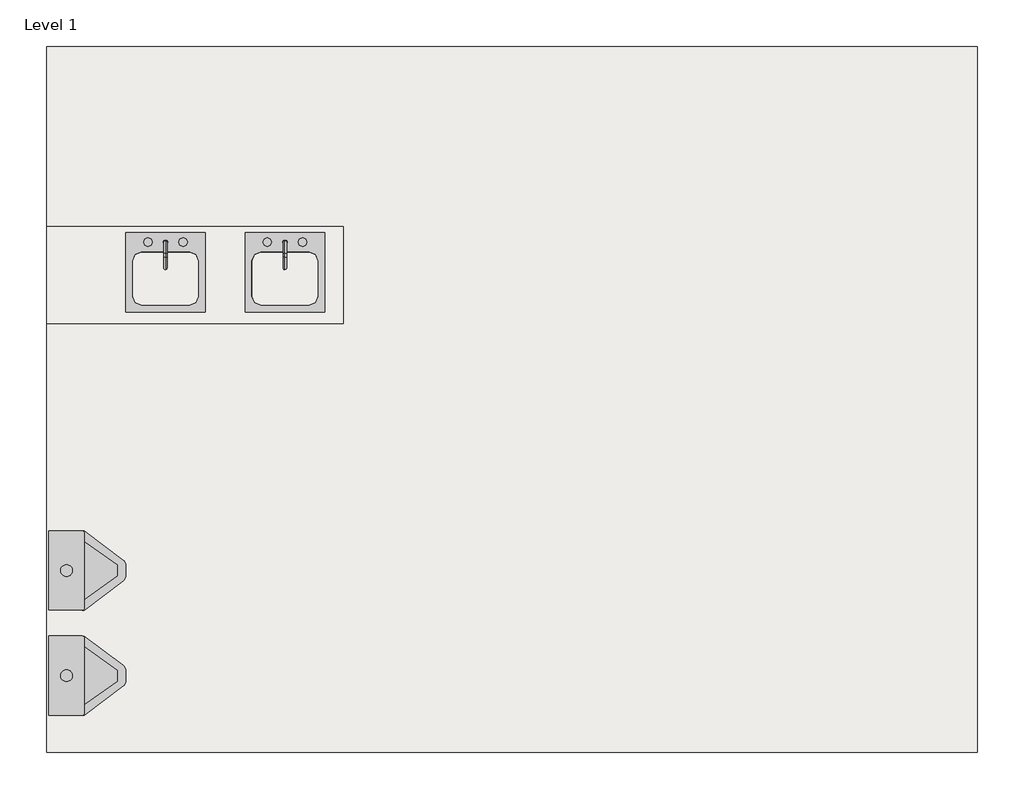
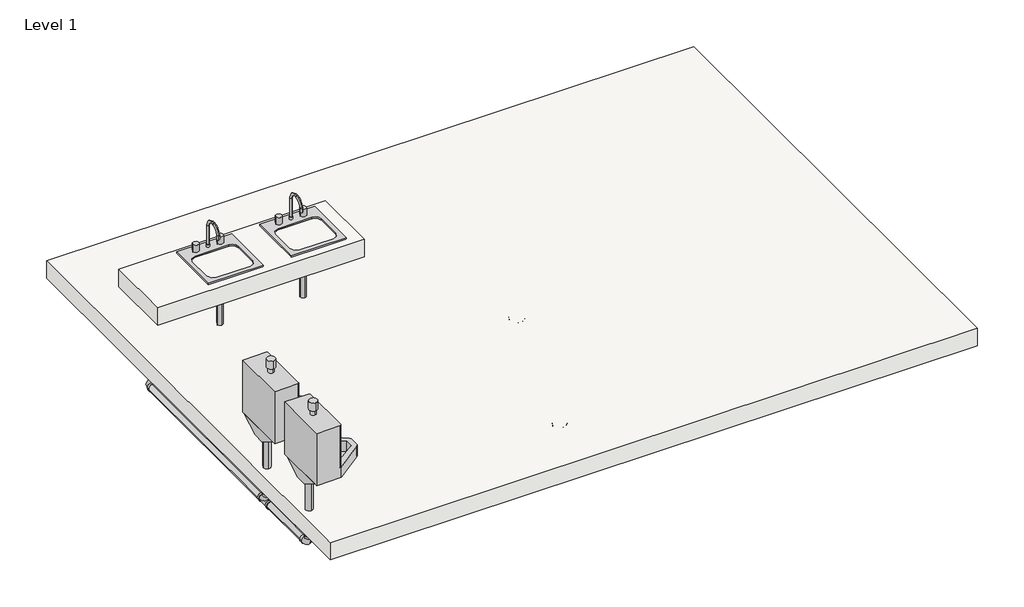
# One storey, incomplete: 12 pipe segments, 11 pipe fittings, 5 flow terminals, 2 slabs.
"""IFC4 building model written with IfcOpenShell, lengths in millimetres."""

from ifc_helpers import new_model, si_unit, point, frame, frame_2d, origin, place, context, project, spatial, polyline, circle_curve, trimmed, segment, composite_curve, outline, extrude, transform, mapped, element, save
from components import flow_terminal_accce45a, flow_terminal_ae45b8c9, flow_terminal_4fefd68c, bend_pvc_sch_40_dwv_standard_1eaeee76, bend_pvc_sch_40_dwv_standard_1fb0f857, bend_pvc_sch_40_dwv_standard_738aab8b, reducer_pvc_sch_40_dwv_standard_b23fa098, reducer_pvc_sch_40_dwv_standard_0cd29215, tee_sanitary_pvc_sch_40_dwv_standard_097eae93

model = new_model("IFC4")

# Units and contexts
model_context = context("Model", 3, world=origin())
ifc_project = project(units=[si_unit("LENGTHUNIT", "METRE", prefix="MILLI")], contexts=[model_context])

# Site, building, storey
site = spatial("IfcSite", under=ifc_project)
building = spatial("IfcBuilding", under=site)
storey = spatial("IfcBuildingStorey", under=building, Name="Level 1", Elevation=0.0)

# Flow terminals
placement = place(None, origin())
flow_terminal_shape = flow_terminal_accce45a(model_context)
element("IfcFlowTerminal", 1, ObjectType="Floor Drain - Round : 5\" Strainer - 2\" Drain", at=placement, inside=storey, context=model_context, shape_type="MappedRepresentation", body=[
    mapped(flow_terminal_shape, transform((-13387.343061, -4203.8047073, 0.0), x_axis=(1.0, 0.0, 0.0), y_axis=(0.0, 1.0, 0.0), z_axis=(0.0, 0.0, 1.0))),
])
flow_terminal_2_shape = flow_terminal_ae45b8c9(model_context)
element("IfcFlowTerminal", 2, ObjectType="Sink - Island - Single : 18\"x18\" - Private", at=placement, inside=storey, context=model_context, shape_type="MappedRepresentation", body=[
    mapped(flow_terminal_2_shape, transform((-14587.1501089, -3206.7453628, 558.8), x_axis=(1.0, 0.0, 0.0), y_axis=(0.0, 1.0, 0.0), z_axis=(0.0, 0.0, 1.0))),
])
element("IfcFlowTerminal", 3, ObjectType="Sink - Island - Single : 18\"x18\" - Private", at=placement, inside=storey, context=model_context, shape_type="MappedRepresentation", body=[
    mapped(flow_terminal_2_shape, transform((-15276.9442591, -3206.7453628, 558.8), x_axis=(1.0, 0.0, 0.0), y_axis=(0.0, 1.0, 0.0), z_axis=(0.0, 0.0, 1.0))),
])
flow_terminal_3_shape = flow_terminal_4fefd68c(model_context)
element("IfcFlowTerminal", 4, ObjectType="Urinal - Wall Hung : 3/4\" Flush Valve", at=placement, inside=storey, context=model_context, shape_type="MappedRepresentation", body=[
    mapped(flow_terminal_3_shape, transform((-15951.155561, -5537.3878398, 457.2), x_axis=(0.0, 1.0, 0.0), y_axis=(0.0, 0.0, 1.0), z_axis=(1.0, 0.0, 0.0))),
])
element("IfcFlowTerminal", 5, ObjectType="Urinal - Wall Hung : 3/4\" Flush Valve", at=placement, inside=storey, context=model_context, shape_type="MappedRepresentation", body=[
    mapped(flow_terminal_3_shape, transform((-15951.155561, -4930.0646116, 457.2), x_axis=(0.0, 1.0, 0.0), y_axis=(0.0, 0.0, 1.0), z_axis=(1.0, 0.0, 0.0))),
])

# Pipe fittings
bend_pvc_sch_40_dwv_standard_shape = bend_pvc_sch_40_dwv_standard_1eaeee76(model_context)
element("IfcPipeFitting", 6, ObjectType="Bend - PVC - Sch 40 - DWV : Standard", at=placement, inside=storey, context=model_context, shape_type="MappedRepresentation", body=[
    mapped(bend_pvc_sch_40_dwv_standard_shape, transform((-13387.343061, -4203.8047073, -304.8), x_axis=(0.0, 0.0, -1.0), y_axis=(0.0, -1.0, 0.0), z_axis=(-1.0, 0.0, 0.0))),
])
element("IfcPipeFitting", 7, ObjectType="Bend - PVC - Sch 40 - DWV : Standard", at=placement, inside=storey, context=model_context, shape_type="MappedRepresentation", body=[
    mapped(bend_pvc_sch_40_dwv_standard_shape, transform((-13387.343061, -5508.9237971, -304.8), x_axis=(1.0, 0.0, 0.0), y_axis=(0.0, 1.0, 0.0), z_axis=(0.0, 0.0, 1.0))),
])
element("IfcPipeFitting", 8, ObjectType="Bend - PVC - Sch 40 - DWV : Standard", at=placement, inside=storey, context=model_context, shape_type="MappedRepresentation", body=[
    mapped(bend_pvc_sch_40_dwv_standard_shape, transform((-15882.496186, -3206.7453628, -304.8), x_axis=(-1.0, 0.0, 0.0), y_axis=(0.0, -1.0, 0.0), z_axis=(0.0, 0.0, 1.0))),
])
element("IfcPipeFitting", 9, ObjectType="Bend - PVC - Sch 40 - DWV : Standard", at=placement, inside=storey, context=model_context, shape_type="MappedRepresentation", body=[
    mapped(bend_pvc_sch_40_dwv_standard_shape, transform((-15882.496186, -5537.3878398, -304.8), x_axis=(0.0, 0.0, -1.0), y_axis=(0.0, 1.0, 0.0), z_axis=(1.0, 0.0, 0.0))),
])
bend_pvc_sch_40_dwv_standard_2_shape = bend_pvc_sch_40_dwv_standard_1fb0f857(model_context)
element("IfcPipeFitting", 10, ObjectType="Bend - PVC - Sch 40 - DWV : Standard", at=placement, inside=storey, context=model_context, shape_type="MappedRepresentation", body=[
    mapped(bend_pvc_sch_40_dwv_standard_2_shape, transform((-13787.2581262, -5508.9237971, -304.8), x_axis=(0.0, 0.0, -1.0), y_axis=(1.0, 0.0, 0.0), z_axis=(0.0, -1.0, 0.0))),
])
bend_pvc_sch_40_dwv_standard_3_shape = bend_pvc_sch_40_dwv_standard_738aab8b(model_context)
element("IfcPipeFitting", 11, ObjectType="Bend - PVC - Sch 40 - DWV : Standard", at=placement, inside=storey, context=model_context, shape_type="MappedRepresentation", body=[
    mapped(bend_pvc_sch_40_dwv_standard_3_shape, transform((-14587.1501089, -3206.7453628, -304.8), x_axis=(0.0, 0.0, -1.0), y_axis=(-1.0, 0.0, 0.0), z_axis=(0.0, 1.0, 0.0))),
])
reducer_pvc_sch_40_dwv_standard_shape = reducer_pvc_sch_40_dwv_standard_b23fa098(model_context)
element("IfcPipeFitting", 12, ObjectType="Reducer - PVC - Sch 40 - DWV : Standard", at=placement, inside=storey, context=model_context, shape_type="MappedRepresentation", body=[
    mapped(reducer_pvc_sch_40_dwv_standard_shape, transform((-15222.9692591, -3206.7453628, -304.8), x_axis=(1.0, 0.0, 0.0), y_axis=(0.0, 1.0, 0.0), z_axis=(0.0, 0.0, 1.0))),
])
element("IfcPipeFitting", 13, ObjectType="Reducer - PVC - Sch 40 - DWV : Standard", at=placement, inside=storey, context=model_context, shape_type="MappedRepresentation", body=[
    mapped(reducer_pvc_sch_40_dwv_standard_shape, transform((-15276.9442591, -3206.7453628, -226.9998), x_axis=(0.0, 0.0, 1.0), y_axis=(-1.0, 0.0, 0.0), z_axis=(0.0, -1.0, 0.0))),
])
reducer_pvc_sch_40_dwv_standard_2_shape = reducer_pvc_sch_40_dwv_standard_0cd29215(model_context)
element("IfcPipeFitting", 14, ObjectType="Reducer - PVC - Sch 40 - DWV : Standard", at=placement, inside=storey, context=model_context, shape_type="MappedRepresentation", body=[
    mapped(reducer_pvc_sch_40_dwv_standard_2_shape, transform((-13465.143261, -5508.9237971, -304.8), x_axis=(-1.0, 0.0, 0.0), y_axis=(0.0, -1.0, 0.0), z_axis=(0.0, 0.0, 1.0))),
])
tee_sanitary_pvc_sch_40_dwv_standard_shape = tee_sanitary_pvc_sch_40_dwv_standard_097eae93(model_context)
element("IfcPipeFitting", 15, ObjectType="Tee Sanitary - PVC - Sch 40 - DWV : Standard", at=placement, inside=storey, context=model_context, shape_type="MappedRepresentation", body=[
    mapped(tee_sanitary_pvc_sch_40_dwv_standard_shape, transform((-15882.496186, -4930.0646116, -304.8), x_axis=(0.0, -1.0, 0.0), y_axis=(0.0, 0.0, -1.0), z_axis=(1.0, 0.0, 0.0))),
])
element("IfcPipeFitting", 16, ObjectType="Tee Sanitary - PVC - Sch 40 - DWV : Standard", at=placement, inside=storey, context=model_context, shape_type="MappedRepresentation", body=[
    mapped(tee_sanitary_pvc_sch_40_dwv_standard_shape, transform((-15276.9442591, -3206.7453628, -304.8), x_axis=(1.0, 0.0, 0.0), y_axis=(0.0, 0.0, -1.0), z_axis=(0.0, 1.0, 0.0))),
])

# Pipe segments
element("IfcPipeSegment", 17, ObjectType="PVC - DWV", at=placement, inside=storey, context=model_context, shape_type="SweptSolid", body=[
    extrude(outline(composite_curve([segment(trimmed(circle_curve(frame_2d((-5508.9237971, -304.8)), 57.15), [point((-5566.0737971, -304.8))], [point((-5508.9237971, -247.65))], False, "CARTESIAN"), True, "CONTINUOUS"), segment(trimmed(circle_curve(frame_2d((-5508.9237971, -304.8)), 57.15), [point((-5508.9237971, -247.65))], [point((-5451.7737971, -304.8))], False, "CARTESIAN"), True, "CONTINUOUS"), segment(trimmed(circle_curve(frame_2d((-5508.9237971, -304.8)), 57.15), [point((-5451.7737971, -304.8))], [point((-5508.9237971, -361.95))], False, "CARTESIAN"), True, "CONTINUOUS"), segment(trimmed(circle_curve(frame_2d((-5508.9237971, -304.8)), 57.15), [point((-5508.9237971, -361.95))], [point((-5566.0737971, -304.8))], False, "CARTESIAN"), True, "CONTINUOUS")], self_intersect=False)), frame((-13644.3831262, 0.0, 0.0), z_axis=(1.0, 0.0, 0.0), x_axis=(0.0, 1.0, 0.0)), (0.0, 0.0, 1.0), 80.8148652),
])
element("IfcPipeSegment", 18, ObjectType="PVC - DWV", at=placement, inside=storey, context=model_context, shape_type="SweptSolid", body=[
    extrude(outline(composite_curve([segment(trimmed(circle_curve(frame_2d((-13787.2581262, -5508.9237971)), 57.15), [point((-13730.1081262, -5508.9237971))], [point((-13787.2581262, -5566.0737971))], False, "CARTESIAN"), True, "CONTINUOUS"), segment(trimmed(circle_curve(frame_2d((-13787.2581262, -5508.9237971)), 57.15), [point((-13787.2581262, -5566.0737971))], [point((-13844.4081262, -5508.9237971))], False, "CARTESIAN"), True, "CONTINUOUS"), segment(trimmed(circle_curve(frame_2d((-13787.2581262, -5508.9237971)), 57.15), [point((-13844.4081262, -5508.9237971))], [point((-13787.2581262, -5451.7737971))], False, "CARTESIAN"), True, "CONTINUOUS"), segment(trimmed(circle_curve(frame_2d((-13787.2581262, -5508.9237971)), 57.15), [point((-13787.2581262, -5451.7737971))], [point((-13730.1081262, -5508.9237971))], False, "CARTESIAN"), True, "CONTINUOUS")], self_intersect=False)), frame((0.0, 0.0, -161.925), z_axis=(0.0, 0.0, 1.0), x_axis=(1.0, 0.0, 0.0)), (0.0, 0.0, 1.0), 161.925),
])
element("IfcPipeSegment", 19, ObjectType="PVC - DWV", at=placement, inside=storey, context=model_context, shape_type="SweptSolid", body=[
    extrude(outline(composite_curve([segment(trimmed(circle_curve(frame_2d((-304.8, -13387.343061)), 30.1625), [point((-304.8, -13417.505561))], [point((-334.9625, -13387.343061))], False, "CARTESIAN"), True, "CONTINUOUS"), segment(trimmed(circle_curve(frame_2d((-304.8, -13387.343061)), 30.1625), [point((-334.9625, -13387.343061))], [point((-304.8, -13357.180561))], False, "CARTESIAN"), True, "CONTINUOUS"), segment(trimmed(circle_curve(frame_2d((-304.8, -13387.343061)), 30.1625), [point((-304.8, -13357.180561))], [point((-274.6375, -13387.343061))], False, "CARTESIAN"), True, "CONTINUOUS"), segment(trimmed(circle_curve(frame_2d((-304.8, -13387.343061)), 30.1625), [point((-274.6375, -13387.343061))], [point((-304.8, -13417.505561))], False, "CARTESIAN"), True, "CONTINUOUS")], self_intersect=False)), frame((0.0, -5431.1235971, 0.0), z_axis=(0.0, 1.0, 0.0), x_axis=(0.0, 0.0, 1.0)), (0.0, 0.0, 1.0), 1149.5186898),
])
element("IfcPipeSegment", 20, ObjectType="PVC - DWV", at=placement, inside=storey, context=model_context, shape_type="SweptSolid", body=[
    extrude(outline(composite_curve([segment(trimmed(circle_curve(frame_2d((-13387.343061, -4203.8047073)), 30.1625), [point((-13357.180561, -4203.8047073))], [point((-13387.343061, -4233.9672073))], False, "CARTESIAN"), True, "CONTINUOUS"), segment(trimmed(circle_curve(frame_2d((-13387.343061, -4203.8047073)), 30.1625), [point((-13387.343061, -4233.9672073))], [point((-13417.505561, -4203.8047073))], False, "CARTESIAN"), True, "CONTINUOUS"), segment(trimmed(circle_curve(frame_2d((-13387.343061, -4203.8047073)), 30.1625), [point((-13417.505561, -4203.8047073))], [point((-13387.343061, -4173.6422073))], False, "CARTESIAN"), True, "CONTINUOUS"), segment(trimmed(circle_curve(frame_2d((-13387.343061, -4203.8047073)), 30.1625), [point((-13387.343061, -4173.6422073))], [point((-13357.180561, -4203.8047073))], False, "CARTESIAN"), True, "CONTINUOUS")], self_intersect=False)), frame((0.0, 0.0, -226.9998), z_axis=(0.0, 0.0, 1.0), x_axis=(1.0, 0.0, 0.0)), (0.0, 0.0, 1.0), 52.3748),
])
element("IfcPipeSegment", 21, ObjectType="PVC - DWV", at=placement, inside=storey, context=model_context, shape_type="SweptSolid", body=[
    extrude(outline(composite_curve([segment(trimmed(circle_curve(frame_2d((-304.8, -15882.496186)), 30.1625), [point((-304.8, -15852.333686))], [point((-274.6375, -15882.496186))], False, "CARTESIAN"), True, "CONTINUOUS"), segment(trimmed(circle_curve(frame_2d((-304.8, -15882.496186)), 30.1625), [point((-274.6375, -15882.496186))], [point((-304.8, -15912.658686))], False, "CARTESIAN"), True, "CONTINUOUS"), segment(trimmed(circle_curve(frame_2d((-304.8, -15882.496186)), 30.1625), [point((-304.8, -15912.658686))], [point((-334.9625, -15882.496186))], False, "CARTESIAN"), True, "CONTINUOUS"), segment(trimmed(circle_curve(frame_2d((-304.8, -15882.496186)), 30.1625), [point((-334.9625, -15882.496186))], [point((-304.8, -15852.333686))], False, "CARTESIAN"), True, "CONTINUOUS")], self_intersect=False)), frame((0.0, -4852.2644116, 0.0), z_axis=(0.0, 1.0, 0.0), x_axis=(0.0, 0.0, 1.0)), (0.0, 0.0, 1.0), 1567.7188488),
])
element("IfcPipeSegment", 22, ObjectType="PVC - DWV", at=placement, inside=storey, context=model_context, shape_type="SweptSolid", body=[
    extrude(outline(composite_curve([segment(trimmed(circle_curve(frame_2d((-3206.7453628, -304.8)), 30.1625), [point((-3236.9078628, -304.8))], [point((-3206.7453628, -274.6375))], False, "CARTESIAN"), True, "CONTINUOUS"), segment(trimmed(circle_curve(frame_2d((-3206.7453628, -304.8)), 30.1625), [point((-3206.7453628, -274.6375))], [point((-3176.5828628, -304.8))], False, "CARTESIAN"), True, "CONTINUOUS"), segment(trimmed(circle_curve(frame_2d((-3206.7453628, -304.8)), 30.1625), [point((-3176.5828628, -304.8))], [point((-3206.7453628, -334.9625))], False, "CARTESIAN"), True, "CONTINUOUS"), segment(trimmed(circle_curve(frame_2d((-3206.7453628, -304.8)), 30.1625), [point((-3206.7453628, -334.9625))], [point((-3236.9078628, -304.8))], False, "CARTESIAN"), True, "CONTINUOUS")], self_intersect=False)), frame((-15804.695986, 0.0, 0.0), z_axis=(1.0, 0.0, 0.0), x_axis=(0.0, 1.0, 0.0)), (0.0, 0.0, 1.0), 449.9515269),
])
element("IfcPipeSegment", 23, ObjectType="PVC - DWV", at=placement, inside=storey, context=model_context, shape_type="SweptSolid", body=[
    extrude(outline(composite_curve([segment(trimmed(circle_curve(frame_2d((-15882.496186, -4930.0646116)), 30.1625), [point((-15852.333686, -4930.0646116))], [point((-15882.496186, -4960.2271116))], False, "CARTESIAN"), True, "CONTINUOUS"), segment(trimmed(circle_curve(frame_2d((-15882.496186, -4930.0646116)), 30.1625), [point((-15882.496186, -4960.2271116))], [point((-15912.658686, -4930.0646116))], False, "CARTESIAN"), True, "CONTINUOUS"), segment(trimmed(circle_curve(frame_2d((-15882.496186, -4930.0646116)), 30.1625), [point((-15912.658686, -4930.0646116))], [point((-15882.496186, -4899.9021116))], False, "CARTESIAN"), True, "CONTINUOUS"), segment(trimmed(circle_curve(frame_2d((-15882.496186, -4930.0646116)), 30.1625), [point((-15882.496186, -4899.9021116))], [point((-15852.333686, -4930.0646116))], False, "CARTESIAN"), True, "CONTINUOUS")], self_intersect=False)), frame((0.0, 0.0, -226.9998), z_axis=(0.0, 0.0, 1.0), x_axis=(1.0, 0.0, 0.0)), (0.0, 0.0, 1.0), 501.6373),
])
element("IfcPipeSegment", 24, ObjectType="PVC - DWV", at=placement, inside=storey, context=model_context, shape_type="SweptSolid", body=[
    extrude(outline(composite_curve([segment(trimmed(circle_curve(frame_2d((-304.8, -15882.496186)), 30.1625), [point((-304.8, -15852.333686))], [point((-274.6375, -15882.496186))], False, "CARTESIAN"), True, "CONTINUOUS"), segment(trimmed(circle_curve(frame_2d((-304.8, -15882.496186)), 30.1625), [point((-274.6375, -15882.496186))], [point((-304.8, -15912.658686))], False, "CARTESIAN"), True, "CONTINUOUS"), segment(trimmed(circle_curve(frame_2d((-304.8, -15882.496186)), 30.1625), [point((-304.8, -15912.658686))], [point((-334.9625, -15882.496186))], False, "CARTESIAN"), True, "CONTINUOUS"), segment(trimmed(circle_curve(frame_2d((-304.8, -15882.496186)), 30.1625), [point((-334.9625, -15882.496186))], [point((-304.8, -15852.333686))], False, "CARTESIAN"), True, "CONTINUOUS")], self_intersect=False)), frame((0.0, -5459.5876398, 0.0), z_axis=(0.0, 1.0, 0.0), x_axis=(0.0, 0.0, 1.0)), (0.0, 0.0, 1.0), 475.5480282),
])
element("IfcPipeSegment", 25, ObjectType="PVC - DWV", at=placement, inside=storey, context=model_context, shape_type="SweptSolid", body=[
    extrude(outline(composite_curve([segment(trimmed(circle_curve(frame_2d((-15882.496186, -5537.3878398)), 30.1625), [point((-15852.333686, -5537.3878398))], [point((-15882.496186, -5567.5503398))], False, "CARTESIAN"), True, "CONTINUOUS"), segment(trimmed(circle_curve(frame_2d((-15882.496186, -5537.3878398)), 30.1625), [point((-15882.496186, -5567.5503398))], [point((-15912.658686, -5537.3878398))], False, "CARTESIAN"), True, "CONTINUOUS"), segment(trimmed(circle_curve(frame_2d((-15882.496186, -5537.3878398)), 30.1625), [point((-15912.658686, -5537.3878398))], [point((-15882.496186, -5507.2253398))], False, "CARTESIAN"), True, "CONTINUOUS"), segment(trimmed(circle_curve(frame_2d((-15882.496186, -5537.3878398)), 30.1625), [point((-15882.496186, -5507.2253398))], [point((-15852.333686, -5537.3878398))], False, "CARTESIAN"), True, "CONTINUOUS")], self_intersect=False)), frame((0.0, 0.0, -226.9998), z_axis=(0.0, 0.0, 1.0), x_axis=(1.0, 0.0, 0.0)), (0.0, 0.0, 1.0), 501.6373),
])
element("IfcPipeSegment", 26, ObjectType="PVC - DWV", at=placement, inside=storey, context=model_context, shape_type="SweptSolid", body=[
    extrude(outline(composite_curve([segment(trimmed(circle_curve(frame_2d((-15276.9442591, -3206.7453628)), 24.209375), [point((-15252.7348841, -3206.7453628))], [point((-15276.9442591, -3230.9547378))], False, "CARTESIAN"), True, "CONTINUOUS"), segment(trimmed(circle_curve(frame_2d((-15276.9442591, -3206.7453628)), 24.209375), [point((-15276.9442591, -3230.9547378))], [point((-15301.1536341, -3206.7453628))], False, "CARTESIAN"), True, "CONTINUOUS"), segment(trimmed(circle_curve(frame_2d((-15276.9442591, -3206.7453628)), 24.209375), [point((-15301.1536341, -3206.7453628))], [point((-15276.9442591, -3182.5359878))], False, "CARTESIAN"), True, "CONTINUOUS"), segment(trimmed(circle_curve(frame_2d((-15276.9442591, -3206.7453628)), 24.209375), [point((-15276.9442591, -3182.5359878))], [point((-15252.7348841, -3206.7453628))], False, "CARTESIAN"), True, "CONTINUOUS")], self_intersect=False)), frame((0.0, 0.0, -177.0126), z_axis=(0.0, 0.0, 1.0), x_axis=(1.0, 0.0, 0.0)), (0.0, 0.0, 1.0), 523.0876),
])
element("IfcPipeSegment", 27, ObjectType="PVC - DWV", at=placement, inside=storey, context=model_context, shape_type="SweptSolid", body=[
    extrude(outline(composite_curve([segment(trimmed(circle_curve(frame_2d((-3206.7453628, -304.8)), 24.209375), [point((-3182.5359878, -304.8))], [point((-3206.7453628, -329.009375))], False, "CARTESIAN"), True, "CONTINUOUS"), segment(trimmed(circle_curve(frame_2d((-3206.7453628, -304.8)), 24.209375), [point((-3206.7453628, -329.009375))], [point((-3230.9547378, -304.8))], False, "CARTESIAN"), True, "CONTINUOUS"), segment(trimmed(circle_curve(frame_2d((-3206.7453628, -304.8)), 24.209375), [point((-3230.9547378, -304.8))], [point((-3206.7453628, -280.590625))], False, "CARTESIAN"), True, "CONTINUOUS"), segment(trimmed(circle_curve(frame_2d((-3206.7453628, -304.8)), 24.209375), [point((-3206.7453628, -280.590625))], [point((-3182.5359878, -304.8))], False, "CARTESIAN"), True, "CONTINUOUS")], self_intersect=False)), frame((-15172.9820591, 0.0, 0.0), z_axis=(1.0, 0.0, 0.0), x_axis=(0.0, 1.0, 0.0)), (0.0, 0.0, 1.0), 523.9321501),
])
element("IfcPipeSegment", 28, ObjectType="PVC - DWV", at=placement, inside=storey, context=model_context, shape_type="SweptSolid", body=[
    extrude(outline(composite_curve([segment(trimmed(circle_curve(frame_2d((-14587.1501089, -3206.7453628)), 24.209375), [point((-14562.9407339, -3206.7453628))], [point((-14587.1501089, -3230.9547378))], False, "CARTESIAN"), True, "CONTINUOUS"), segment(trimmed(circle_curve(frame_2d((-14587.1501089, -3206.7453628)), 24.209375), [point((-14587.1501089, -3230.9547378))], [point((-14611.3594839, -3206.7453628))], False, "CARTESIAN"), True, "CONTINUOUS"), segment(trimmed(circle_curve(frame_2d((-14587.1501089, -3206.7453628)), 24.209375), [point((-14611.3594839, -3206.7453628))], [point((-14587.1501089, -3182.5359878))], False, "CARTESIAN"), True, "CONTINUOUS"), segment(trimmed(circle_curve(frame_2d((-14587.1501089, -3206.7453628)), 24.209375), [point((-14587.1501089, -3182.5359878))], [point((-14562.9407339, -3206.7453628))], False, "CARTESIAN"), True, "CONTINUOUS")], self_intersect=False)), frame((0.0, 0.0, -242.9002), z_axis=(0.0, 0.0, 1.0), x_axis=(1.0, 0.0, 0.0)), (0.0, 0.0, 1.0), 588.9752),
])

# Slabs
element("IfcSlab", 29, ObjectType="Generic -6\"", at=placement, inside=storey, context=model_context, shape_type="SweptSolid", body=[
    extrude(outline(polyline([(-10588.580561, -1902.1411222), (-10588.580561, -5980.4286222), (-15963.855561, -5980.4286222), (-15963.855561, -1902.1411222), (-10588.580561, -1902.1411222)])), frame((0.0, 0.0, -152.4), z_axis=(0.0, 0.0, 1.0), x_axis=(1.0, 0.0, 0.0)), (0.0, 0.0, 1.0), 152.4),
])
element("IfcSlab", 30, ObjectType="Generic -6\"", at=placement, inside=storey, context=model_context, shape_type="SweptSolid", body=[
    extrude(outline(polyline([(-14250.943061, -2943.5411222), (-14250.943061, -3502.3411222), (-15963.855561, -3502.3411222), (-15963.855561, -2943.5411222), (-14250.943061, -2943.5411222)])), frame((0.0, 0.0, 406.4), z_axis=(0.0, 0.0, 1.0), x_axis=(1.0, 0.0, 0.0)), (0.0, 0.0, 1.0), 152.4),
])

save(model, "model.ifc")
